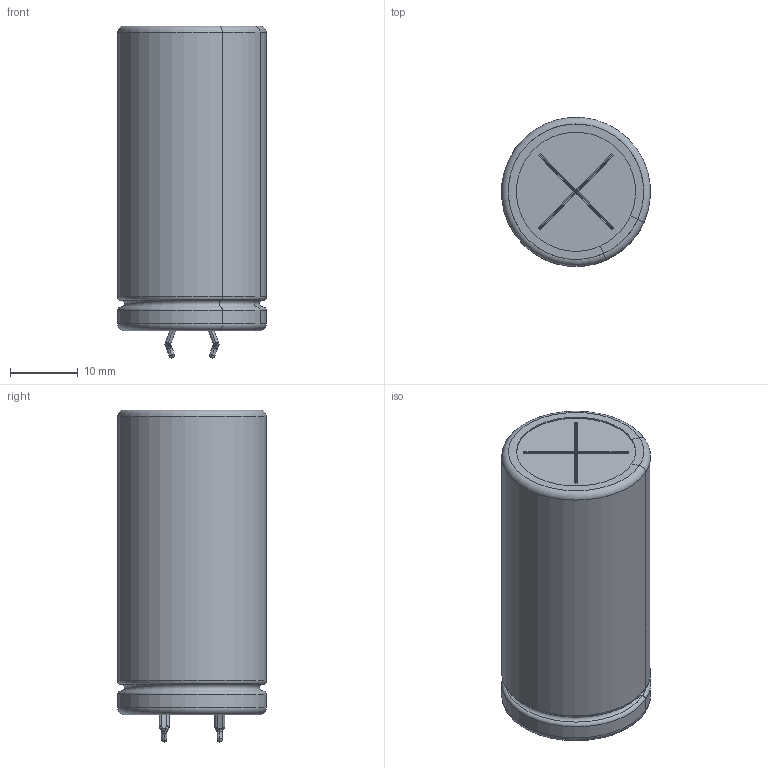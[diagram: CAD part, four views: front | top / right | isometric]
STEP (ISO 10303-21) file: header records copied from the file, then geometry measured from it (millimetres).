
FILE_DESCRIPTION(/* description */ (''),/* implementation_level */ '2;1');
FILE_NAME(/* name */ '22x45_Snap.stp',/* time_stamp */ '2017-09-11T14:23:30+09:00',/* author */ (''),/* organization */ (''),/* preprocessor_version */ 'ST-DEVELOPER v16',/* originating_system */ 'SIEMENS PLM Software NX 11.0',/* authorisation */ '');
FILE_SCHEMA (('AUTOMOTIVE_DESIGN { 1 0 10303 214 3 1 1 1 }'));
Length unit declared in the file: millimetre
Products named in the file (1): 22x45_Snap_0
Bounding box: 21.93 x 21.93 x 49.02 mm (x, y, z)
Volume: 16924.3 mm3; surface area: 10701.8 mm2
Topology: 5 solids, 5 shells, 208 faces, 523 edges, 310 vertices
Faces by surface type: cylinder 76, plane 75, torus 25, sphere 20, bspline 12
Full cylindrical faces by diameter (mm): 4 x2, 21.6 x2
Entity records: 6789 total; most frequent: CARTESIAN_POINT 1265, DIRECTION 1128, ORIENTED_EDGE 988, EDGE_CURVE 494, AXIS2_PLACEMENT_3D 437, VERTEX_POINT 310, LINE 254, VECTOR 254
